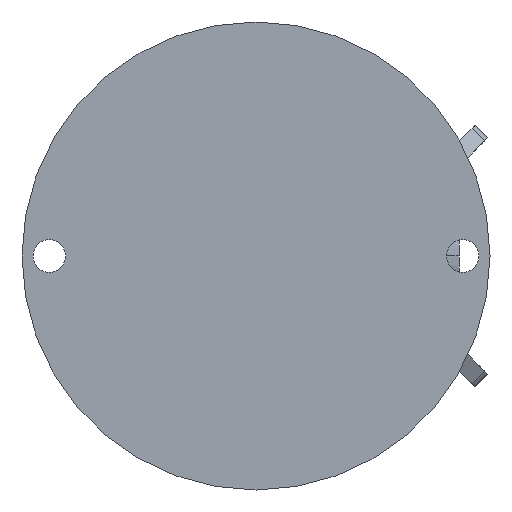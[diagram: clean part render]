
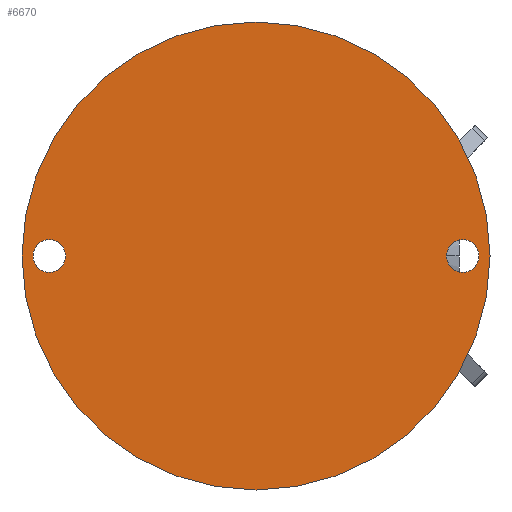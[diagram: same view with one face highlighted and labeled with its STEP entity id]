
A CAD part, front view. The second image highlights one B-rep face of the part: STEP entity #6670.
In plain terms, the highlighted planar face has unit normal (0, -1, 0).
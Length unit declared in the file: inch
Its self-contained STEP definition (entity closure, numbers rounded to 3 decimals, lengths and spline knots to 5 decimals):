
#788 = DIRECTION ( 'NONE',  ( 0., -1., 0. ) ) ;
#931 = DIRECTION ( 'NONE',  ( 0., -1., 0. ) ) ;
#1050 = AXIS2_PLACEMENT_3D ( 'NONE', #7399, #9356, #26676 ) ;
#2288 = AXIS2_PLACEMENT_3D ( 'NONE', #23687, #18961, #26397 ) ;
#2922 = CARTESIAN_POINT ( 'NONE',  ( -0.7175, -0.66295, 0.0565 ) ) ;
#3000 = FACE_OUTER_BOUND ( 'NONE', #16135, .T. ) ;
#3424 = DIRECTION ( 'NONE',  ( 0., 0., 1. ) ) ;
#3910 = DIRECTION ( 'NONE',  ( 0., 0., 1. ) ) ;
#4102 = VERTEX_POINT ( 'NONE', #18705 ) ;
#4205 = CIRCLE ( 'NONE', #2288, 0.0565 ) ;
#4285 = VERTEX_POINT ( 'NONE', #7492 ) ;
#5498 = ORIENTED_EDGE ( 'NONE', *, *, #5908, .F. ) ;
#5908 = EDGE_CURVE ( 'NONE', #32175, #10582, #4205, .T. ) ;
#5984 = DIRECTION ( 'NONE',  ( 0., 0., 1. ) ) ;
#6670 = ADVANCED_FACE ( 'NONE', ( #3000, #7281, #19705 ), #12189, .F. ) ;
#7281 = FACE_BOUND ( 'NONE', #32053, .T. ) ;
#7399 = CARTESIAN_POINT ( 'NONE',  ( -0.2785, -0.66295, 0. ) ) ;
#7492 = CARTESIAN_POINT ( 'NONE',  ( 0., -0.66295, -0.81225 ) ) ;
#7983 = CIRCLE ( 'NONE', #22880, 0.81225 ) ;
#8055 = EDGE_CURVE ( 'NONE', #10582, #32175, #30096, .T. ) ;
#8145 = DIRECTION ( 'NONE',  ( 0., 0., 1. ) ) ;
#8523 = CARTESIAN_POINT ( 'NONE',  ( 0.7175, -0.66295, 0. ) ) ;
#9356 = DIRECTION ( 'NONE',  ( 0., 1., 0. ) ) ;
#9430 = EDGE_CURVE ( 'NONE', #4285, #13876, #7983, .T. ) ;
#10582 = VERTEX_POINT ( 'NONE', #19630 ) ;
#11051 = EDGE_LOOP ( 'NONE', ( #23164, #24048 ) ) ;
#12189 = PLANE ( 'NONE',  #1050 ) ;
#12938 = DIRECTION ( 'NONE',  ( 0., 1., 0. ) ) ;
#13054 = DIRECTION ( 'NONE',  ( 0., -1., 0. ) ) ;
#13564 = EDGE_CURVE ( 'NONE', #18040, #4102, #14809, .T. ) ;
#13876 = VERTEX_POINT ( 'NONE', #15327 ) ;
#14809 = CIRCLE ( 'NONE', #25638, 0.0565 ) ;
#15271 = DIRECTION ( 'NONE',  ( 0., 0., 1. ) ) ;
#15327 = CARTESIAN_POINT ( 'NONE',  ( 0., -0.66295, 0.81225 ) ) ;
#16135 = EDGE_LOOP ( 'NONE', ( #30917, #27326 ) ) ;
#16828 = EDGE_CURVE ( 'NONE', #13876, #4285, #26258, .T. ) ;
#17246 = AXIS2_PLACEMENT_3D ( 'NONE', #20526, #12938, #3910 ) ;
#18040 = VERTEX_POINT ( 'NONE', #2922 ) ;
#18060 = CARTESIAN_POINT ( 'NONE',  ( -0.7175, -0.66295, 0. ) ) ;
#18705 = CARTESIAN_POINT ( 'NONE',  ( -0.7175, -0.66295, -0.0565 ) ) ;
#18961 = DIRECTION ( 'NONE',  ( 0., -1., 0. ) ) ;
#19630 = CARTESIAN_POINT ( 'NONE',  ( 0.7175, -0.66295, -0.0565 ) ) ;
#19705 = FACE_BOUND ( 'NONE', #11051, .T. ) ;
#20028 = EDGE_CURVE ( 'NONE', #4102, #18040, #31927, .T. ) ;
#20526 = CARTESIAN_POINT ( 'NONE',  ( 0., -0.66295, 0. ) ) ;
#22880 = AXIS2_PLACEMENT_3D ( 'NONE', #27264, #30094, #15271 ) ;
#22981 = CARTESIAN_POINT ( 'NONE',  ( -0.7175, -0.66295, 0. ) ) ;
#23164 = ORIENTED_EDGE ( 'NONE', *, *, #13564, .F. ) ;
#23267 = AXIS2_PLACEMENT_3D ( 'NONE', #22981, #13054, #8145 ) ;
#23687 = CARTESIAN_POINT ( 'NONE',  ( 0.7175, -0.66295, 0. ) ) ;
#24048 = ORIENTED_EDGE ( 'NONE', *, *, #20028, .F. ) ;
#25638 = AXIS2_PLACEMENT_3D ( 'NONE', #18060, #788, #5984 ) ;
#25786 = AXIS2_PLACEMENT_3D ( 'NONE', #8523, #931, #3424 ) ;
#26258 = CIRCLE ( 'NONE', #17246, 0.81225 ) ;
#26397 = DIRECTION ( 'NONE',  ( 0., 0., 1. ) ) ;
#26676 = DIRECTION ( 'NONE',  ( 0., 0., 1. ) ) ;
#27264 = CARTESIAN_POINT ( 'NONE',  ( 0., -0.66295, 0. ) ) ;
#27326 = ORIENTED_EDGE ( 'NONE', *, *, #9430, .F. ) ;
#28770 = CARTESIAN_POINT ( 'NONE',  ( 0.7175, -0.66295, 0.0565 ) ) ;
#30094 = DIRECTION ( 'NONE',  ( 0., 1., 0. ) ) ;
#30096 = CIRCLE ( 'NONE', #25786, 0.0565 ) ;
#30549 = ORIENTED_EDGE ( 'NONE', *, *, #8055, .F. ) ;
#30917 = ORIENTED_EDGE ( 'NONE', *, *, #16828, .F. ) ;
#31927 = CIRCLE ( 'NONE', #23267, 0.0565 ) ;
#32053 = EDGE_LOOP ( 'NONE', ( #5498, #30549 ) ) ;
#32175 = VERTEX_POINT ( 'NONE', #28770 ) ;
